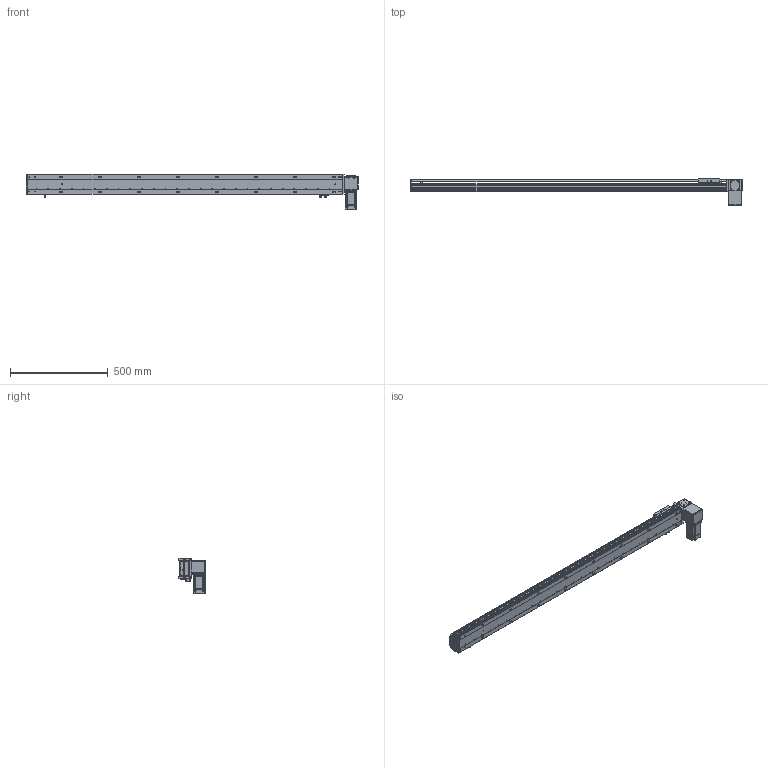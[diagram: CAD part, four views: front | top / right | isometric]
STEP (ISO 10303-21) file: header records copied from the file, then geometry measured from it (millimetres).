
FILE_DESCRIPTION (( 'STEP AP203' ), '1' );
FILE_NAME ('RY100-T-300-DL.SLDASM_1400.step', '2024-04-24T01:12:02', ( '盈信电脑' ), ( '东莞市道滘镇水果街19号' ), 'SwSTEP 2.0', 'SolidWorks 2016', '' );
FILE_SCHEMA (( 'CONFIG_CONTROL_DESIGN' ));
Length unit declared in the file: millimetre
Products named in the file (16): RY100-T粣創揤踡裔; RY100-T肮祭謫翋盓傅釱; 滅袉蝶18-10; RY100-T翋肮祭謫裔啣2; RY100-T-300-RK倰第菁釱_1400; RY80-T肮祭謫狟殏俋欶; RY100-T-300-DL.SLDASM_1400; RY100綴裔啣; 1; RY100-T翋肮祭謫裔啣; RY100-T左右折电机安装板; RY100-T肮祭謫臏賑輸; RY100-T-300-RK倰第奻裔_1400; RY100-T翋肮祭謫粣; RY100俋离覜茼え; 覜茼ん672
Assembly tree (18 placements, depth 2):
  RY100-T-300-DL.SLDASM_1400
    RY100-T-300-RK倰第菁釱_1400
    RY100-T-300-RK倰第奻裔_1400
    RY100-T肮祭謫臏賑輸
    RY100綴裔啣
    覜茼ん672  x3
    RY100俋离覜茼え
    RY100-T翋肮祭謫粣
    RY100-T肮祭謫翋盓傅釱
    滅袉蝶18-10  x2
    RY100-T翋肮祭謫裔啣
    1
    RY100-T左右折电机安装板
    RY100-T粣創揤踡裔
    RY100-T翋肮祭謫裔啣2
    RY80-T肮祭謫狟殏俋欶
Bounding box: 1700 x 135.5 x 182.5 mm (x, y, z)
Volume: 3282210 mm3; surface area: 1369112 mm2
Topology: 18 solids, 18 shells, 2263 faces, 6280 edges, 4078 vertices
Faces by surface type: plane 1215, cylinder 829, cone 141, bspline 78
Entity records: 73079 total; most frequent: CARTESIAN_POINT 17584, ORIENTED_EDGE 11392, DIRECTION 10892, EDGE_CURVE 5696, VERTEX_POINT 3746, LINE 3654, VECTOR 3654, AXIS2_PLACEMENT_3D 3619
